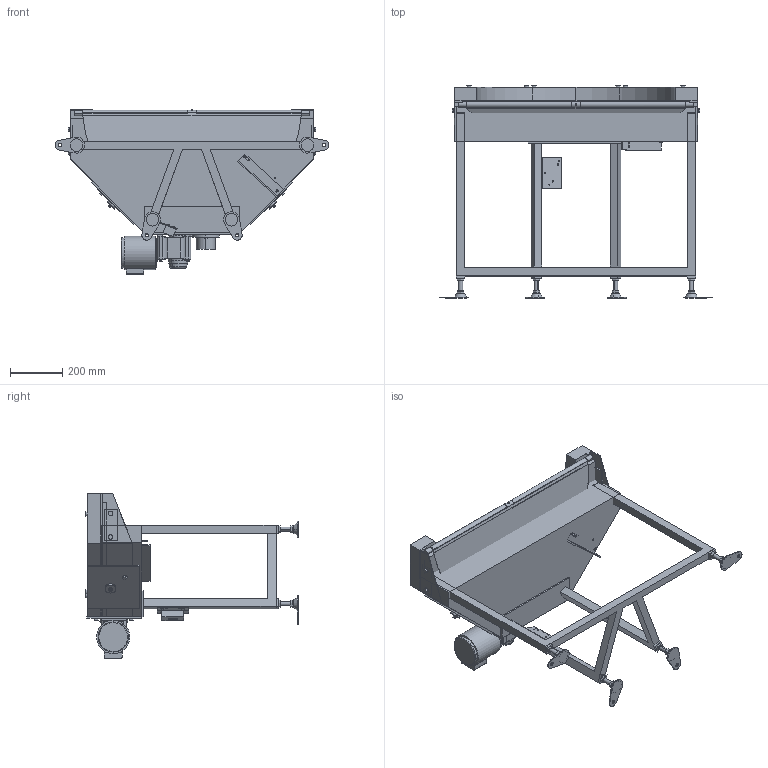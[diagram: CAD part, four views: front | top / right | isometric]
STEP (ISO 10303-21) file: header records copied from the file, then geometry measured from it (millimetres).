
FILE_DESCRIPTION (( 'STEP AP214' ), '1' );
FILE_NAME ('MMBC3-HS-310-380-180°-L-K-160.STEP', '2024-10-07T01:34:46', ( '' ), ( '' ), 'SwSTEP 2.0', 'SolidWorks 2017', '' );
FILE_SCHEMA (( 'AUTOMOTIVE_DESIGN' ));
Length unit declared in the file: millimetre
Products named in the file (1): MMBC3-HS-310-380-180°-L-K-160
Bounding box: 1046 x 810.2 x 628 mm (x, y, z)
Volume: 56798776.6 mm3; surface area: 4744323.7 mm2
Topology: 36 solids, 36 shells, 1305 faces, 3162 edges, 2058 vertices
Faces by surface type: plane 817, cylinder 366, cone 56, bspline 46, torus 20
Entity records: 41452 total; most frequent: CARTESIAN_POINT 9923, DIRECTION 6460, ORIENTED_EDGE 6308, EDGE_CURVE 3154, AXIS2_PLACEMENT_3D 2161, LINE 2138, VECTOR 2138, VERTEX_POINT 2058
